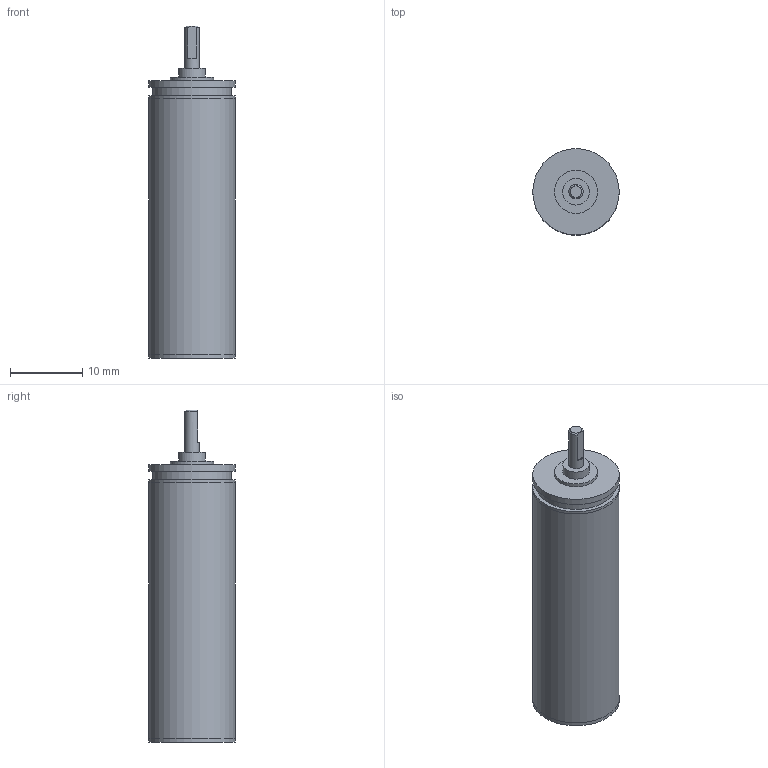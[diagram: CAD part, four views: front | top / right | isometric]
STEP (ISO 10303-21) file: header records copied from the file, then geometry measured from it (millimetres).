
FILE_DESCRIPTION(/* description */ (''),/* implementation_level */ '2;1');
FILE_NAME(/* name */ '12-3_14.stp',/* time_stamp */ '2016-08-24T10:16:47+02:00',/* author */ ('DR. FRITZ FAULHABER GmbH & Co. KG'),/* organization */ ('DR. FRITZ FAULHABER GmbH & Co. KG'),/* preprocessor_version */ 'ST-DEVELOPER v16',/* originating_system */ 'SIEMENS PLM Software NX 10.0',/* authorisation */ '');
FILE_SCHEMA (('AUTOMOTIVE_DESIGN { 1 0 10303 214 3 1 1 1 }'));
Length unit declared in the file: millimetre
Products named in the file (1): H00000577_A
Bounding box: 12 x 12 x 46.1 mm (x, y, z)
Volume: 4303.6 mm3; surface area: 1839.8 mm2
Topology: 1 solids, 1 shells, 32 faces, 52 edges, 34 vertices
Faces by surface type: plane 16, cylinder 14, cone 2
Full cylindrical faces by diameter (mm): 2 x1, 2.48 x1, 2.6 x1, 3.7 x1, 5 x1, 6 x2, 10.88 x1, 11.99 x2, 12 x4
Entity records: 692 total; most frequent: DIRECTION 129, CARTESIAN_POINT 115, ORIENTED_EDGE 70, AXIS2_PLACEMENT_3D 63, EDGE_LOOP 59, FACE_BOUND 54, EDGE_CURVE 35, ADVANCED_FACE 32
